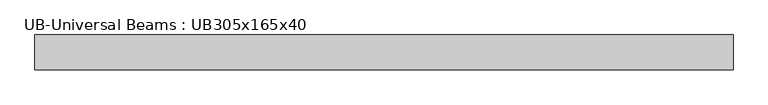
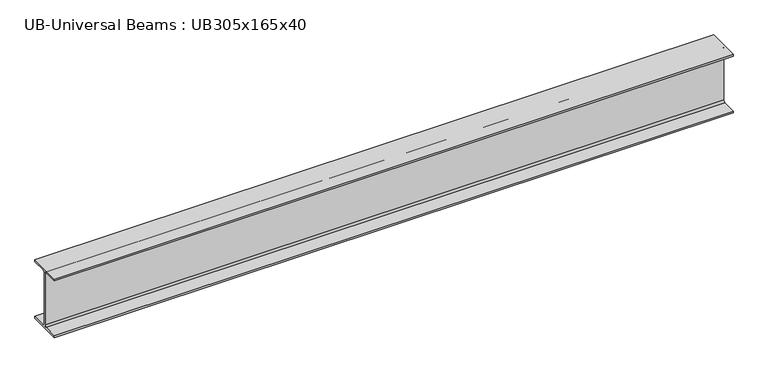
"""IFC4 building model written with IfcOpenShell, lengths in millimetres: beam geometry, UB-Universal Beams : UB305x165x40."""

from ifc_helpers import new_model, si_unit, point, frame, frame_2d, origin, place, context, project, spatial, polyline, circle_curve, trimmed, segment, composite_curve, outline, extrude, source, transform, mapped, element, save


def ub_universal_beams_ub305x165x40_bc7dc938(model_context):
    return source(origin(), model_context, "Body", "SweptSolid", [
        extrude(outline(composite_curve([segment(polyline([(82.5, -141.5), (82.5, -151.7), (-82.5, -151.7), (-82.5, -141.5), (-11.9, -141.5)]), True, "CONTINUOUS"), segment(trimmed(circle_curve(frame_2d((-11.9, -132.6)), 8.9), [point((-11.9, -141.5))], [point((-3.0, -132.6))], True, "CARTESIAN"), True, "CONTINUOUS"), segment(polyline([(-3.0, -132.6), (-3.0, 132.6)]), True, "CONTINUOUS"), segment(trimmed(circle_curve(frame_2d((-11.9, 132.6)), 8.9), [point((-3.0, 132.6))], [point((-11.9, 141.5))], True, "CARTESIAN"), True, "CONTINUOUS"), segment(polyline([(-11.9, 141.5), (-82.5, 141.5), (-82.5, 151.7), (82.5, 151.7), (82.5, 141.5), (11.9, 141.5)]), True, "CONTINUOUS"), segment(trimmed(circle_curve(frame_2d((11.9, 132.6)), 8.9), [point((11.9, 141.5))], [point((3.0, 132.6))], True, "CARTESIAN"), True, "CONTINUOUS"), segment(polyline([(3.0, 132.6), (3.0, -132.6)]), True, "CONTINUOUS"), segment(trimmed(circle_curve(frame_2d((11.9, -132.6)), 8.9), [point((3.0, -132.6))], [point((11.9, -141.5))], True, "CARTESIAN"), True, "CONTINUOUS"), segment(polyline([(11.9, -141.5), (82.5, -141.5)]), True, "CONTINUOUS")], self_intersect=False)), frame((-1684.55, 0.0, 0.0), z_axis=(1.0, 0.0, 0.0), x_axis=(0.0, 1.0, 0.0)), (0.0, 0.0, 1.0), 3317.1),
    ])


if __name__ == "__main__":
    model = new_model("IFC4")
    model_context = context("Model", 3, world=origin())
    ifc_project = project(units=[si_unit("LENGTHUNIT", "METRE", prefix="MILLI")], contexts=[model_context])
    site = spatial("IfcSite", under=ifc_project)
    building = spatial("IfcBuilding", under=site)
    placement = place(None, origin())
    ub_universal_beams_ub305x165x40_shape = ub_universal_beams_ub305x165x40_bc7dc938(model_context)
    element("IfcBeam", 1, ObjectType="UB-Universal Beams : UB305x165x40", at=placement, inside=building, context=model_context, shape_type="MappedRepresentation", body=[
        mapped(ub_universal_beams_ub305x165x40_shape, transform((0.0, 0.0, 0.0), x_axis=(1.0, 0.0, 0.0), y_axis=(0.0, 1.0, 0.0), z_axis=(0.0, 0.0, 1.0))),
    ])
    save(model, "model.ifc")
